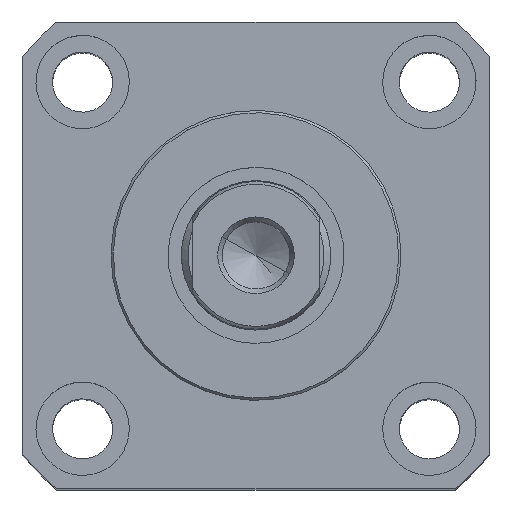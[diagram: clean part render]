
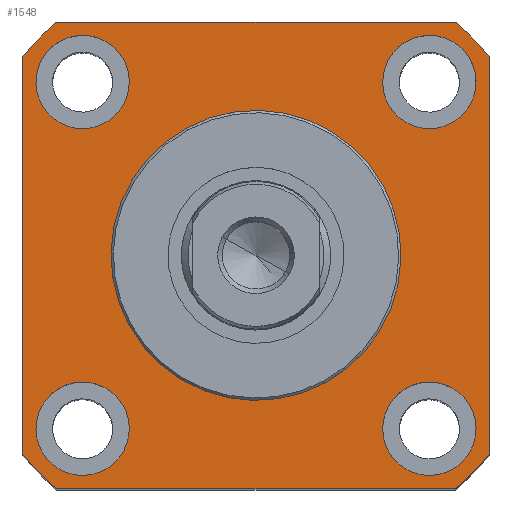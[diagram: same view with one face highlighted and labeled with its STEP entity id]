
A CAD part, top view. The second image highlights one B-rep face of the part: STEP entity #1548.
In plain terms, the highlighted planar face has unit normal (0, 0, 1).
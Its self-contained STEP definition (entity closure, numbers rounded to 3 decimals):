
#1100=AXIS2_PLACEMENT_3D('Plane Axis2P3D',#1097,#1098,#1099) ;
#1175=AXIS2_PLACEMENT_3D('Circle Axis2P3D',#1173,#1174,$) ;
#1210=AXIS2_PLACEMENT_3D('Circle Axis2P3D',#1208,#1209,$) ;
#1232=AXIS2_PLACEMENT_3D('Circle Axis2P3D',#1230,#1231,$) ;
#1267=AXIS2_PLACEMENT_3D('Circle Axis2P3D',#1265,#1266,$) ;
#1289=AXIS2_PLACEMENT_3D('Circle Axis2P3D',#1287,#1288,$) ;
#1324=AXIS2_PLACEMENT_3D('Circle Axis2P3D',#1322,#1323,$) ;
#1360=AXIS2_PLACEMENT_3D('Circle Axis2P3D',#1358,#1359,$) ;
#1372=AXIS2_PLACEMENT_3D('Circle Axis2P3D',#1370,#1371,$) ;
#1389=AXIS2_PLACEMENT_3D('Circle Axis2P3D',#1387,#1388,$) ;
#1424=AXIS2_PLACEMENT_3D('Circle Axis2P3D',#1422,#1423,$) ;
#1491=AXIS2_PLACEMENT_3D('Circle Axis2P3D',#1489,#1490,$) ;
#1496=AXIS2_PLACEMENT_3D('Circle Axis2P3D',#1494,#1495,$) ;
#1510=AXIS2_PLACEMENT_3D('Circle Axis2P3D',#1508,#1509,$) ;
#1515=AXIS2_PLACEMENT_3D('Circle Axis2P3D',#1513,#1514,$) ;
#87=CARTESIAN_POINT('Line Origine',(0.,-35.,105.)) ;
#91=CARTESIAN_POINT('Vertex',(-29.85,-35.,105.)) ;
#93=CARTESIAN_POINT('Vertex',(29.85,-35.,105.)) ;
#127=CARTESIAN_POINT('Line Origine',(0.,35.,105.)) ;
#131=CARTESIAN_POINT('Vertex',(29.85,35.,105.)) ;
#133=CARTESIAN_POINT('Vertex',(-29.85,35.,105.)) ;
#1097=CARTESIAN_POINT('Axis2P3D Location',(0.,46.,105.)) ;
#1173=CARTESIAN_POINT('Axis2P3D Location',(-26.,26.,105.)) ;
#1177=CARTESIAN_POINT('Vertex',(-29.356,19.857,105.)) ;
#1179=CARTESIAN_POINT('Vertex',(-22.644,32.143,105.)) ;
#1208=CARTESIAN_POINT('Axis2P3D Location',(-26.,26.,105.)) ;
#1230=CARTESIAN_POINT('Axis2P3D Location',(26.,26.,105.)) ;
#1234=CARTESIAN_POINT('Vertex',(19.857,29.356,105.)) ;
#1236=CARTESIAN_POINT('Vertex',(32.143,22.644,105.)) ;
#1265=CARTESIAN_POINT('Axis2P3D Location',(26.,26.,105.)) ;
#1287=CARTESIAN_POINT('Axis2P3D Location',(26.,-26.,105.)) ;
#1291=CARTESIAN_POINT('Vertex',(29.356,-19.857,105.)) ;
#1293=CARTESIAN_POINT('Vertex',(22.644,-32.143,105.)) ;
#1322=CARTESIAN_POINT('Axis2P3D Location',(26.,-26.,105.)) ;
#1348=CARTESIAN_POINT('Vertex',(-10.428,19.087,105.)) ;
#1355=CARTESIAN_POINT('Vertex',(10.428,-19.087,105.)) ;
#1358=CARTESIAN_POINT('Axis2P3D Location',(0.,0.,105.)) ;
#1370=CARTESIAN_POINT('Axis2P3D Location',(0.,0.,105.)) ;
#1387=CARTESIAN_POINT('Axis2P3D Location',(-26.,-26.,105.)) ;
#1391=CARTESIAN_POINT('Vertex',(-19.857,-29.356,105.)) ;
#1393=CARTESIAN_POINT('Vertex',(-32.143,-22.644,105.)) ;
#1422=CARTESIAN_POINT('Axis2P3D Location',(-26.,-26.,105.)) ;
#1480=CARTESIAN_POINT('Line Origine',(35.,0.,105.)) ;
#1484=CARTESIAN_POINT('Vertex',(35.,-29.85,105.)) ;
#1486=CARTESIAN_POINT('Vertex',(35.,29.85,105.)) ;
#1489=CARTESIAN_POINT('Axis2P3D Location',(0.,0.,105.)) ;
#1494=CARTESIAN_POINT('Axis2P3D Location',(0.,0.,105.)) ;
#1498=CARTESIAN_POINT('Vertex',(-35.,29.85,105.)) ;
#1501=CARTESIAN_POINT('Line Origine',(-35.,0.,105.)) ;
#1505=CARTESIAN_POINT('Vertex',(-35.,-29.85,105.)) ;
#1508=CARTESIAN_POINT('Axis2P3D Location',(0.,0.,105.)) ;
#1513=CARTESIAN_POINT('Axis2P3D Location',(0.,0.,105.)) ;
#88=DIRECTION('Vector Direction',(-1.,0.,0.)) ;
#128=DIRECTION('Vector Direction',(1.,0.,0.)) ;
#1098=DIRECTION('Axis2P3D Direction',(0.,0.,1.)) ;
#1099=DIRECTION('Axis2P3D XDirection',(1.,0.,0.)) ;
#1174=DIRECTION('Axis2P3D Direction',(-0.,0.,-1.)) ;
#1209=DIRECTION('Axis2P3D Direction',(-0.,0.,-1.)) ;
#1231=DIRECTION('Axis2P3D Direction',(0.,0.,-1.)) ;
#1266=DIRECTION('Axis2P3D Direction',(0.,0.,-1.)) ;
#1288=DIRECTION('Axis2P3D Direction',(0.,0.,-1.)) ;
#1323=DIRECTION('Axis2P3D Direction',(0.,0.,-1.)) ;
#1359=DIRECTION('Axis2P3D Direction',(0.,0.,1.)) ;
#1371=DIRECTION('Axis2P3D Direction',(0.,0.,1.)) ;
#1388=DIRECTION('Axis2P3D Direction',(0.,-0.,-1.)) ;
#1423=DIRECTION('Axis2P3D Direction',(0.,-0.,-1.)) ;
#1481=DIRECTION('Vector Direction',(0.,1.,0.)) ;
#1490=DIRECTION('Axis2P3D Direction',(0.,0.,1.)) ;
#1495=DIRECTION('Axis2P3D Direction',(0.,0.,1.)) ;
#1502=DIRECTION('Vector Direction',(0.,-1.,0.)) ;
#1509=DIRECTION('Axis2P3D Direction',(0.,0.,1.)) ;
#1514=DIRECTION('Axis2P3D Direction',(0.,0.,1.)) ;
#89=VECTOR('Line Direction',#88,1.) ;
#129=VECTOR('Line Direction',#128,1.) ;
#1482=VECTOR('Line Direction',#1481,1.) ;
#1503=VECTOR('Line Direction',#1502,1.) ;
#1519=ORIENTED_EDGE('',*,*,#1488,.T.) ;
#1520=ORIENTED_EDGE('',*,*,#1493,.T.) ;
#1521=ORIENTED_EDGE('',*,*,#135,.T.) ;
#1522=ORIENTED_EDGE('',*,*,#1500,.T.) ;
#1523=ORIENTED_EDGE('',*,*,#1507,.T.) ;
#1524=ORIENTED_EDGE('',*,*,#1512,.T.) ;
#1525=ORIENTED_EDGE('',*,*,#95,.T.) ;
#1526=ORIENTED_EDGE('',*,*,#1517,.T.) ;
#1529=ORIENTED_EDGE('',*,*,#1426,.F.) ;
#1530=ORIENTED_EDGE('',*,*,#1395,.F.) ;
#1533=ORIENTED_EDGE('',*,*,#1374,.F.) ;
#1534=ORIENTED_EDGE('',*,*,#1362,.F.) ;
#1537=ORIENTED_EDGE('',*,*,#1326,.F.) ;
#1538=ORIENTED_EDGE('',*,*,#1295,.F.) ;
#1541=ORIENTED_EDGE('',*,*,#1269,.F.) ;
#1542=ORIENTED_EDGE('',*,*,#1238,.F.) ;
#1545=ORIENTED_EDGE('',*,*,#1212,.F.) ;
#1546=ORIENTED_EDGE('',*,*,#1181,.F.) ;
#1531=FACE_BOUND('',#1528,.T.) ;
#1535=FACE_BOUND('',#1532,.T.) ;
#1539=FACE_BOUND('',#1536,.T.) ;
#1543=FACE_BOUND('',#1540,.T.) ;
#1547=FACE_BOUND('',#1544,.T.) ;
#1548=ADVANCED_FACE('PartBody',(#1527,#1531,#1535,#1539,#1543,#1547),#1101,.T.) ;
#1176=CIRCLE('generated circle',#1175,7.) ;
#1211=CIRCLE('generated circle',#1210,7.) ;
#1233=CIRCLE('generated circle',#1232,7.) ;
#1268=CIRCLE('generated circle',#1267,7.) ;
#1290=CIRCLE('generated circle',#1289,7.) ;
#1325=CIRCLE('generated circle',#1324,7.) ;
#1361=CIRCLE('generated circle',#1360,21.75) ;
#1373=CIRCLE('generated circle',#1372,21.75) ;
#1390=CIRCLE('generated circle',#1389,7.) ;
#1425=CIRCLE('generated circle',#1424,7.) ;
#1492=CIRCLE('generated circle',#1491,46.) ;
#1497=CIRCLE('generated circle',#1496,46.) ;
#1511=CIRCLE('generated circle',#1510,46.) ;
#1516=CIRCLE('generated circle',#1515,46.) ;
#95=EDGE_CURVE('',#92,#94,#90,.F.) ;
#135=EDGE_CURVE('',#132,#134,#130,.F.) ;
#1181=EDGE_CURVE('',#1178,#1180,#1176,.F.) ;
#1212=EDGE_CURVE('',#1180,#1178,#1211,.F.) ;
#1238=EDGE_CURVE('',#1235,#1237,#1233,.F.) ;
#1269=EDGE_CURVE('',#1237,#1235,#1268,.F.) ;
#1295=EDGE_CURVE('',#1292,#1294,#1290,.F.) ;
#1326=EDGE_CURVE('',#1294,#1292,#1325,.F.) ;
#1362=EDGE_CURVE('',#1356,#1349,#1361,.T.) ;
#1374=EDGE_CURVE('',#1349,#1356,#1373,.T.) ;
#1395=EDGE_CURVE('',#1392,#1394,#1390,.F.) ;
#1426=EDGE_CURVE('',#1394,#1392,#1425,.F.) ;
#1488=EDGE_CURVE('',#1485,#1487,#1483,.T.) ;
#1493=EDGE_CURVE('',#1487,#132,#1492,.T.) ;
#1500=EDGE_CURVE('',#134,#1499,#1497,.T.) ;
#1507=EDGE_CURVE('',#1499,#1506,#1504,.T.) ;
#1512=EDGE_CURVE('',#1506,#92,#1511,.T.) ;
#1517=EDGE_CURVE('',#94,#1485,#1516,.T.) ;
#1518=EDGE_LOOP('',(#1519,#1520,#1521,#1522,#1523,#1524,#1525,#1526)) ;
#1528=EDGE_LOOP('',(#1529,#1530)) ;
#1532=EDGE_LOOP('',(#1533,#1534)) ;
#1536=EDGE_LOOP('',(#1537,#1538)) ;
#1540=EDGE_LOOP('',(#1541,#1542)) ;
#1544=EDGE_LOOP('',(#1545,#1546)) ;
#1527=FACE_OUTER_BOUND('',#1518,.T.) ;
#90=LINE('Line',#87,#89) ;
#130=LINE('Line',#127,#129) ;
#1483=LINE('Line',#1480,#1482) ;
#1504=LINE('Line',#1501,#1503) ;
#1101=PLANE('Plane',#1100) ;
#92=VERTEX_POINT('',#91) ;
#94=VERTEX_POINT('',#93) ;
#132=VERTEX_POINT('',#131) ;
#134=VERTEX_POINT('',#133) ;
#1178=VERTEX_POINT('',#1177) ;
#1180=VERTEX_POINT('',#1179) ;
#1235=VERTEX_POINT('',#1234) ;
#1237=VERTEX_POINT('',#1236) ;
#1292=VERTEX_POINT('',#1291) ;
#1294=VERTEX_POINT('',#1293) ;
#1349=VERTEX_POINT('',#1348) ;
#1356=VERTEX_POINT('',#1355) ;
#1392=VERTEX_POINT('',#1391) ;
#1394=VERTEX_POINT('',#1393) ;
#1485=VERTEX_POINT('',#1484) ;
#1487=VERTEX_POINT('',#1486) ;
#1499=VERTEX_POINT('',#1498) ;
#1506=VERTEX_POINT('',#1505) ;
